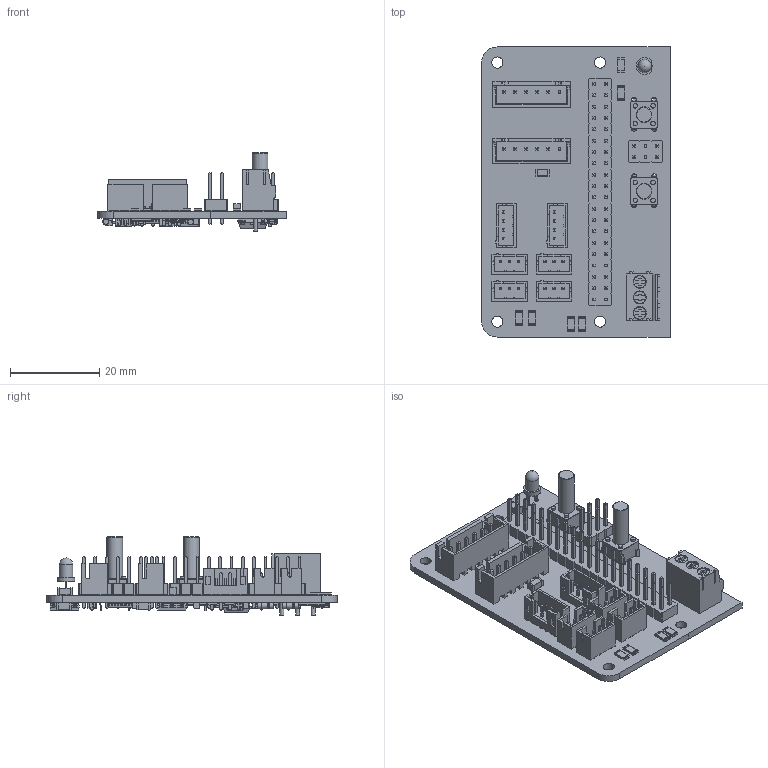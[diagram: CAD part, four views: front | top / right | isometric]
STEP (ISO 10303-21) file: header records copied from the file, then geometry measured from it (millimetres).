
FILE_DESCRIPTION(('KiCad electronic assembly'),'2;1');
FILE_NAME('zerosensor.step','2020-11-30T22:19:12',('An Author'),( 'A Company'),'Open CASCADE STEP processor 6.9', 'KiCad to STEP converter','Unknown');
FILE_SCHEMA(('AUTOMOTIVE_DESIGN { 1 0 10303 214 1 1 1 1 }'));
Length unit declared in the file: millimetre
Products named in the file (42): Open CASCADE STEP translator 6.9 1; JST_PH_B3B-PH-K_1x03_P2.00mm_Vertical; SOLID; R_1206_3216Metric; SOIC-8_3.9x4.9mm_P1.27mm; SOT-223; C_1206_3216Metric; D_SOD-123; PinHeader_2x20_P2.54mm_Vertical; D_MiniMELF; C_0805_2012Metric; JST_PH_B4B-PH-K_1x04_P2.00mm_Vertical; TSSOP-20_4.4x6.5mm_P0.65mm; JST_XH_B6B-XH-A_1x06_P2.50mm_Vertical; MSOP-8_3x3mm_P0.65mm; R_0805_2012Metric; SOT-23; SW_PUSH_6mm_H13mm; LED_D3.0mm; PinHeader_2x03_P2.54mm_Vertical; TerminalBlock_Phoenix_PT-1,5-3-3.5-H_1x03_P3.50mm_Horizontal; TO-252-2; COMPOUND
Assembly tree (80 placements, depth 3):
  Open CASCADE STEP translator 6.9 1
    JST_PH_B3B-PH-K_1x03_P2.00mm_Vertical  x4
      SOLID
    R_1206_3216Metric  x19
      SOLID
    SOIC-8_3.9x4.9mm_P1.27mm
      SOLID
    SOT-223  x2
      SOLID
    C_1206_3216Metric  x4
      SOLID
    D_SOD-123
      SOLID
    PinHeader_2x20_P2.54mm_Vertical
      SOLID
    D_MiniMELF  x4
      SOLID
    C_0805_2012Metric  x5
      SOLID
    JST_PH_B4B-PH-K_1x04_P2.00mm_Vertical  x2
      SOLID
    TSSOP-20_4.4x6.5mm_P0.65mm  x2
      SOLID
    JST_XH_B6B-XH-A_1x06_P2.50mm_Vertical  x2
      SOLID
    MSOP-8_3x3mm_P0.65mm
      SOLID
    R_0805_2012Metric  x4
      SOLID
    SOT-23
      SOLID
    SW_PUSH_6mm_H13mm  x2
      SOLID
    LED_D3.0mm
      SOLID
    PinHeader_2x03_P2.54mm_Vertical
      SOLID
    TerminalBlock_Phoenix_PT-1,5-3-3.5-H_1x03_P3.50mm_Horizontal
      SOLID
    TO-252-2
      SOLID
    COMPOUND
Bounding box: 42.23 x 65 x 17.5 mm (x, y, z)
Volume: 7915.4 mm3; surface area: 14909 mm2
Topology: 60 solids, 60 shells, 4902 faces, 12533 edges, 7964 vertices
Faces by surface type: plane 3825, cylinder 829, bspline 237, revolution 8, torus 2, sphere 1
Full cylindrical faces by diameter (mm): 0.5 x3, 0.6 x1, 0.75 x20, 0.9 x5, 0.95 x12, 1 x55, 1.1 x8, 1.2 x3, 1.35 x8, 1.4 x12, 2.5 x4, 2.7 x3, 2.9 x3, 3 x1, 3.5 x2
Entity records: 202429 total; most frequent: CARTESIAN_POINT 34056, DIRECTION 27379, LINE 19655, VECTOR 19655, ORIENTED_EDGE 14632, PCURVE 14632, DEFINITIONAL_REPRESENTATION 14632, EDGE_CURVE 7316
